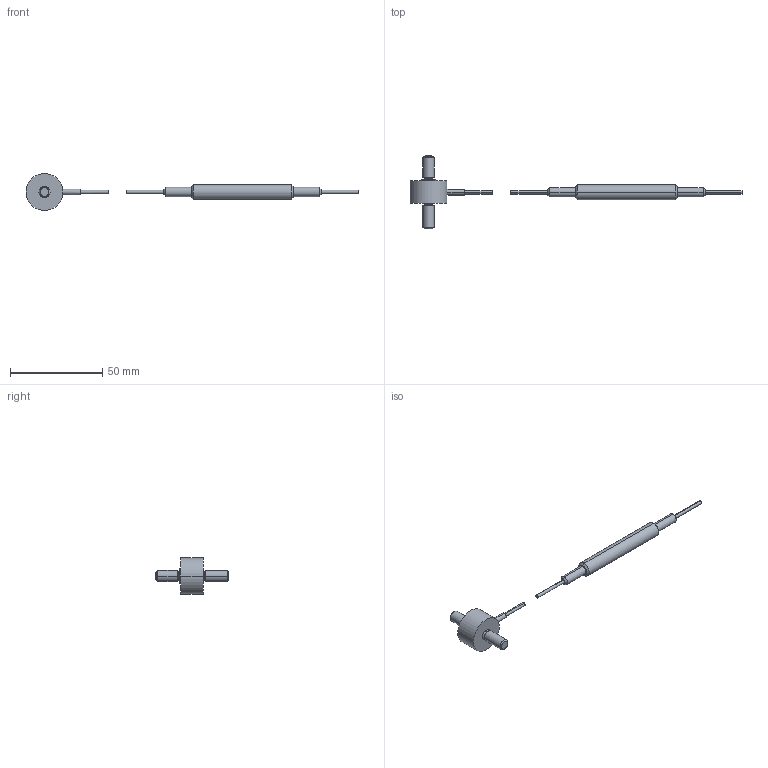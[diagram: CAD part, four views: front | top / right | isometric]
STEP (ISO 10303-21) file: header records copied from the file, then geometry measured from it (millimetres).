
FILE_DESCRIPTION(('STEP AP203'),'1');
FILE_NAME('C:/TPO v2/SharedFS/Outgoing/burster_8417-6002-v008_4xush7toe3ih4uz4jzqew7wun.stp','2013-08-27T14:54:26',('TraceParts'),('TraceParts S.A.'),'XStep 1.0',' ',' ');
FILE_SCHEMA(('CONFIG_CONTROL_DESIGN'));
Length unit declared in the file: millimetre
Products named in the file (2): 1; 2
Bounding box: 179.5 x 40 x 20 mm (x, y, z)
Volume: 7969.1 mm3; surface area: 4277.6 mm2
Topology: 2 solids, 2 shells, 67 faces, 151 edges, 98 vertices
Faces by surface type: cylinder 26, torus 14, plane 14, cone 12, sphere 1
Entity records: 2047 total; most frequent: DIRECTION 391, CARTESIAN_POINT 359, ORIENTED_EDGE 302, AXIS2_PLACEMENT_3D 176, EDGE_CURVE 151, CIRCLE 107, VERTEX_POINT 98, EDGE_LOOP 77
